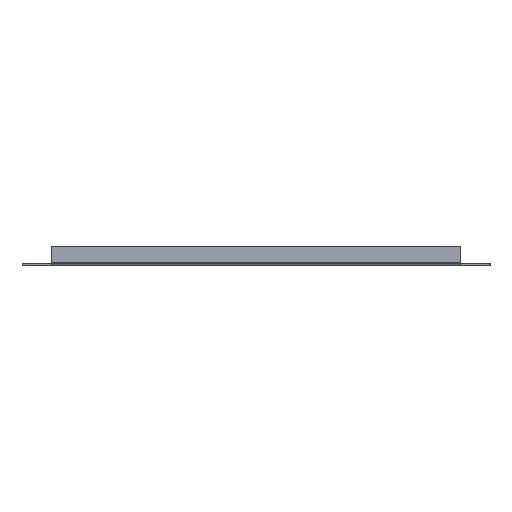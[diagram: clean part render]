
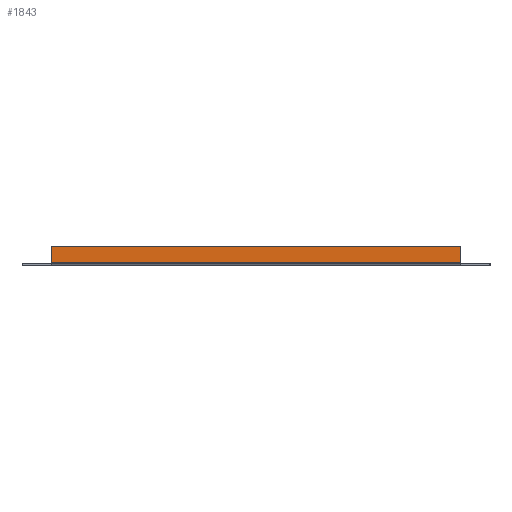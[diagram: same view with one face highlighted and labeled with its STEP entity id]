
A CAD part, left-side view. The second image highlights one B-rep face of the part: STEP entity #1843.
In plain terms, the highlighted planar face has unit normal (-1, 0, 0).
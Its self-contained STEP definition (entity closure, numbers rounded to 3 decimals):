
#1688 = VERTEX_POINT('',#1689);
#1689 = CARTESIAN_POINT('',(-925.,210.,3.1));
#1728 = VERTEX_POINT('',#1729);
#1729 = CARTESIAN_POINT('',(-925.,-210.,3.1));
#1753 = EDGE_CURVE('',#1728,#1688,#1754,.T.);
#1754 = LINE('',#1755,#1756);
#1755 = CARTESIAN_POINT('',(-925.,-210.,3.1));
#1756 = VECTOR('',#1757,1.);
#1757 = DIRECTION('',(-0.,1.,0.));
#1795 = VERTEX_POINT('',#1796);
#1796 = CARTESIAN_POINT('',(-925.,-210.,20.));
#1802 = EDGE_CURVE('',#1728,#1795,#1803,.T.);
#1803 = LINE('',#1804,#1805);
#1804 = CARTESIAN_POINT('',(-925.,-210.,20.));
#1805 = VECTOR('',#1806,1.);
#1806 = DIRECTION('',(0.,0.,1.));
#1817 = EDGE_CURVE('',#1818,#1688,#1820,.T.);
#1818 = VERTEX_POINT('',#1819);
#1819 = CARTESIAN_POINT('',(-925.,210.,20.));
#1820 = LINE('',#1821,#1822);
#1821 = CARTESIAN_POINT('',(-925.,210.,2.5));
#1822 = VECTOR('',#1823,1.);
#1823 = DIRECTION('',(0.,0.,-1.));
#1843 = ADVANCED_FACE('',(#1844),#1855,.F.);
#1844 = FACE_BOUND('',#1845,.T.);
#1845 = EDGE_LOOP('',(#1846,#1847,#1848,#1854));
#1846 = ORIENTED_EDGE('',*,*,#1753,.F.);
#1847 = ORIENTED_EDGE('',*,*,#1802,.T.);
#1848 = ORIENTED_EDGE('',*,*,#1849,.T.);
#1849 = EDGE_CURVE('',#1795,#1818,#1850,.T.);
#1850 = LINE('',#1851,#1852);
#1851 = CARTESIAN_POINT('',(-925.,210.,20.));
#1852 = VECTOR('',#1853,1.);
#1853 = DIRECTION('',(-0.,1.,-0.));
#1854 = ORIENTED_EDGE('',*,*,#1817,.T.);
#1855 = PLANE('',#1856);
#1856 = AXIS2_PLACEMENT_3D('',#1857,#1858,#1859);
#1857 = CARTESIAN_POINT('',(-925.,-210.,2.5));
#1858 = DIRECTION('',(1.,0.,0.));
#1859 = DIRECTION('',(0.,0.,-1.));
